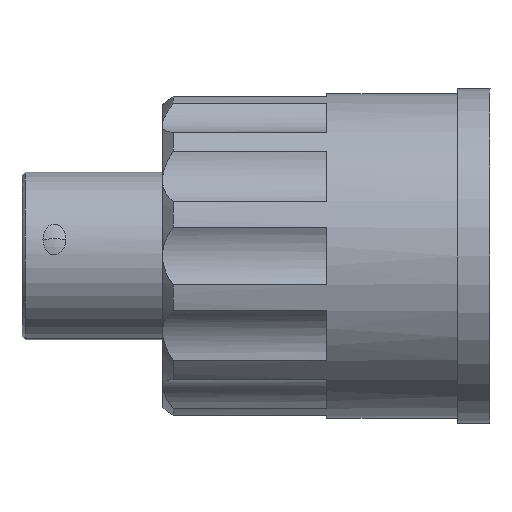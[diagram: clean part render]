
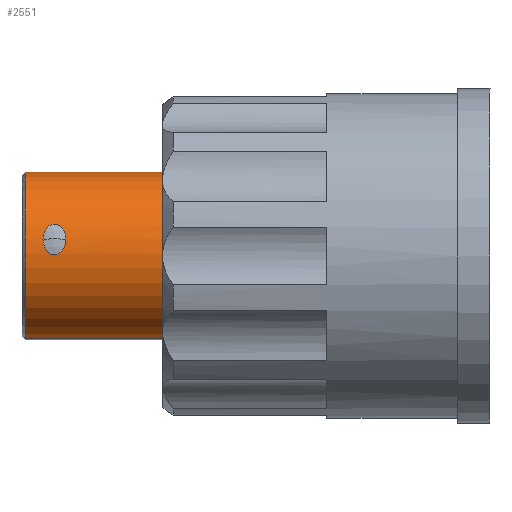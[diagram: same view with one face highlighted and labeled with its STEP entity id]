
A CAD part, front view. The second image highlights one B-rep face of the part: STEP entity #2551.
In plain terms, the highlighted cylindrical face has radius 7.75 mm (diameter 15.5 mm), a partial arc.
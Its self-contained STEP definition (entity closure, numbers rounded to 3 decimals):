
#32 = CARTESIAN_POINT ( 'NONE',  ( -41.357, -7.56, 1.714 ) ) ;
#173 = CARTESIAN_POINT ( 'NONE',  ( -41.254, -7.438, 2.182 ) ) ;
#224 = CARTESIAN_POINT ( 'NONE',  ( -41.017, -7.303, 2.597 ) ) ;
#279 = CARTESIAN_POINT ( 'NONE',  ( -40.905, -7.259, 2.716 ) ) ;
#294 = ORIENTED_EDGE ( 'NONE', *, *, #425, .T. ) ;
#329 = CARTESIAN_POINT ( 'NONE',  ( -40.632, -7.192, 2.889 ) ) ;
#347 = CARTESIAN_POINT ( 'NONE',  ( -40.136, -7.17, 2.943 ) ) ;
#381 = CARTESIAN_POINT ( 'NONE',  ( -39.696, -7.259, 2.717 ) ) ;
#425 = EDGE_CURVE ( 'NONE', #6460, #7053, #2292, .T. ) ;
#432 = CARTESIAN_POINT ( 'NONE',  ( -39.584, -7.303, 2.597 ) ) ;
#449 = CARTESIAN_POINT ( 'NONE',  ( -43., -1.552, -7.593 ) ) ;
#474 = CARTESIAN_POINT ( 'NONE',  ( -39.346, -7.438, 2.183 ) ) ;
#496 = CARTESIAN_POINT ( 'NONE',  ( -39.263, -7.521, 1.876 ) ) ;
#538 = CARTESIAN_POINT ( 'NONE',  ( -39.243, -7.593, 1.552 ) ) ;
#582 = CARTESIAN_POINT ( 'NONE',  ( -39.243, -7.626, 1.389 ) ) ;
#584 = AXIS2_PLACEMENT_3D ( 'NONE', #4661, #1746, #2000 ) ;
#720 = CARTESIAN_POINT ( 'NONE',  ( -39.346, -7.698, 0.912 ) ) ;
#763 = EDGE_CURVE ( 'NONE', #4555, #4276, #1332, .T. ) ;
#768 = CARTESIAN_POINT ( 'NONE',  ( -39.409, -7.714, 0.759 ) ) ;
#824 = CARTESIAN_POINT ( 'NONE',  ( -39.693, -7.743, 0.353 ) ) ;
#881 = CARTESIAN_POINT ( 'NONE',  ( -39.974, -7.748, 0.174 ) ) ;
#914 = CARTESIAN_POINT ( 'NONE',  ( -40.215, -7.749, 0.108 ) ) ;
#1010 = CARTESIAN_POINT ( 'NONE',  ( -40.38, -7.749, 0.107 ) ) ;
#1022 = EDGE_LOOP ( 'NONE', ( #5055, #9337 ) ) ;
#1040 = CARTESIAN_POINT ( 'NONE',  ( -40.464, -7.749, 0.121 ) ) ;
#1075 = CARTESIAN_POINT ( 'NONE',  ( -40.621, -7.748, 0.172 ) ) ;
#1112 = CARTESIAN_POINT ( 'NONE',  ( -40.697, -7.747, 0.21 ) ) ;
#1140 = EDGE_CURVE ( 'NONE', #4555, #6460, #8043, .T. ) ;
#1147 = CARTESIAN_POINT ( 'NONE',  ( -40.834, -7.744, 0.303 ) ) ;
#1178 = CARTESIAN_POINT ( 'NONE',  ( -40.898, -7.742, 0.359 ) ) ;
#1212 = CARTESIAN_POINT ( 'NONE',  ( -41.01, -7.735, 0.48 ) ) ;
#1277 = CARTESIAN_POINT ( 'NONE',  ( -41.059, -7.731, 0.546 ) ) ;
#1313 = VECTOR ( 'NONE', #7153, 1000. ) ;
#1314 = AXIS2_PLACEMENT_3D ( 'NONE', #3164, #9367, #3190 ) ;
#1332 = LINE ( 'NONE', #7468, #1313 ) ;
#1340 = CARTESIAN_POINT ( 'NONE',  ( -41.278, -7.703, 0.897 ) ) ;
#1399 = CARTESIAN_POINT ( 'NONE',  ( -41.357, -7.659, 1.229 ) ) ;
#1452 = CARTESIAN_POINT ( 'NONE',  ( -41.357, -7.593, 1.552 ) ) ;
#1475 = ORIENTED_EDGE ( 'NONE', *, *, #763, .F. ) ;
#1529 = EDGE_CURVE ( 'NONE', #4653, #5862, #1615, .T. ) ;
#1546 = EDGE_CURVE ( 'NONE', #5862, #4653, #2384, .T. ) ;
#1615 = B_SPLINE_CURVE_WITH_KNOTS ( 'NONE', 3,
 ( #8375, #32, #8337, #173, #8393, #224, #279, #329, #8518, #347, #8643, #381, #432, #8552, #474, #496, #8600, #538 ),
 .UNSPECIFIED., .F., .F.,
 ( 4, 2, 2, 2, 2, 2, 2, 2, 4 ),
 ( 0.004, 0.004, 0.005, 0.005, 0.006, 0.006, 0.007, 0.007, 0.008 ),
 .UNSPECIFIED. ) ;
#1651 = EDGE_CURVE ( 'NONE', #7053, #4276, #9228, .T. ) ;
#1708 = AXIS2_PLACEMENT_3D ( 'NONE', #7055, #7068, #7091 ) ;
#1746 = DIRECTION ( 'NONE',  ( 1., 0., 0. ) ) ;
#2000 = DIRECTION ( 'NONE',  ( 0., -0.2, -0.98 ) ) ;
#2249 = VECTOR ( 'NONE', #3840, 1000. ) ;
#2287 = CARTESIAN_POINT ( 'NONE',  ( -29., -1.552, -7.593 ) ) ;
#2292 = LINE ( 'NONE', #6070, #2249 ) ;
#2360 = CARTESIAN_POINT ( 'NONE',  ( -43., 1.552, 7.593 ) ) ;
#2384 = B_SPLINE_CURVE_WITH_KNOTS ( 'NONE', 3,
 ( #8703, #582, #8784, #720, #768, #8743, #824, #8861, #881, #8802, #914, #1010, #1040, #1075, #1112, #1147, #1178, #1212, #1277, #1340, #1399, #1452 ),
 .UNSPECIFIED., .F., .F.,
 ( 4, 2, 2, 2, 2, 2, 2, 2, 2, 2, 4 ),
 ( 0., 0., 0.001, 0.001, 0.002, 0.002, 0.002, 0.002, 0.003, 0.003, 0.004 ),
 .UNSPECIFIED. ) ;
#2551 = ADVANCED_FACE ( 'NONE', ( #9293, #9074 ), #8782, .T. ) ;
#3164 = CARTESIAN_POINT ( 'NONE',  ( -29., 0., 0. ) ) ;
#3190 = DIRECTION ( 'NONE',  ( 0., -0.2, -0.98 ) ) ;
#3840 = DIRECTION ( 'NONE',  ( 1., 0., 0. ) ) ;
#4276 = VERTEX_POINT ( 'NONE', #8469 ) ;
#4555 = VERTEX_POINT ( 'NONE', #2360 ) ;
#4653 = VERTEX_POINT ( 'NONE', #7067 ) ;
#4661 = CARTESIAN_POINT ( 'NONE',  ( -22.644, 0., 0. ) ) ;
#5030 = CARTESIAN_POINT ( 'NONE',  ( -39.243, -7.593, 1.552 ) ) ;
#5055 = ORIENTED_EDGE ( 'NONE', *, *, #1529, .T. ) ;
#5485 = EDGE_LOOP ( 'NONE', ( #1475, #9483, #294, #9474 ) ) ;
#5862 = VERTEX_POINT ( 'NONE', #5030 ) ;
#6070 = CARTESIAN_POINT ( 'NONE',  ( -22.644, -1.552, -7.593 ) ) ;
#6460 = VERTEX_POINT ( 'NONE', #449 ) ;
#7053 = VERTEX_POINT ( 'NONE', #2287 ) ;
#7055 = CARTESIAN_POINT ( 'NONE',  ( -43., 0., 0. ) ) ;
#7067 = CARTESIAN_POINT ( 'NONE',  ( -41.357, -7.593, 1.552 ) ) ;
#7068 = DIRECTION ( 'NONE',  ( 1., 0., 0. ) ) ;
#7091 = DIRECTION ( 'NONE',  ( 0., -0.2, -0.98 ) ) ;
#7153 = DIRECTION ( 'NONE',  ( 1., 0., 0. ) ) ;
#7468 = CARTESIAN_POINT ( 'NONE',  ( -22.644, 1.552, 7.593 ) ) ;
#8043 = CIRCLE ( 'NONE', #1708, 7.75 ) ;
#8337 = CARTESIAN_POINT ( 'NONE',  ( -41.337, -7.521, 1.876 ) ) ;
#8375 = CARTESIAN_POINT ( 'NONE',  ( -41.357, -7.593, 1.552 ) ) ;
#8393 = CARTESIAN_POINT ( 'NONE',  ( -41.191, -7.393, 2.33 ) ) ;
#8469 = CARTESIAN_POINT ( 'NONE',  ( -29., 1.552, 7.593 ) ) ;
#8518 = CARTESIAN_POINT ( 'NONE',  ( -40.466, -7.17, 2.943 ) ) ;
#8552 = CARTESIAN_POINT ( 'NONE',  ( -39.41, -7.392, 2.332 ) ) ;
#8600 = CARTESIAN_POINT ( 'NONE',  ( -39.243, -7.56, 1.715 ) ) ;
#8643 = CARTESIAN_POINT ( 'NONE',  ( -39.971, -7.191, 2.89 ) ) ;
#8703 = CARTESIAN_POINT ( 'NONE',  ( -39.243, -7.593, 1.552 ) ) ;
#8743 = CARTESIAN_POINT ( 'NONE',  ( -39.581, -7.736, 0.481 ) ) ;
#8782 = CYLINDRICAL_SURFACE ( 'NONE', #584, 7.75 ) ;
#8784 = CARTESIAN_POINT ( 'NONE',  ( -39.263, -7.654, 1.229 ) ) ;
#8802 = CARTESIAN_POINT ( 'NONE',  ( -40.131, -7.749, 0.122 ) ) ;
#8861 = CARTESIAN_POINT ( 'NONE',  ( -39.899, -7.747, 0.212 ) ) ;
#9074 = FACE_BOUND ( 'NONE', #1022, .T. ) ;
#9228 = CIRCLE ( 'NONE', #1314, 7.75 ) ;
#9293 = FACE_OUTER_BOUND ( 'NONE', #5485, .T. ) ;
#9337 = ORIENTED_EDGE ( 'NONE', *, *, #1546, .T. ) ;
#9367 = DIRECTION ( 'NONE',  ( -1., 0., 0. ) ) ;
#9474 = ORIENTED_EDGE ( 'NONE', *, *, #1651, .T. ) ;
#9483 = ORIENTED_EDGE ( 'NONE', *, *, #1140, .T. ) ;
